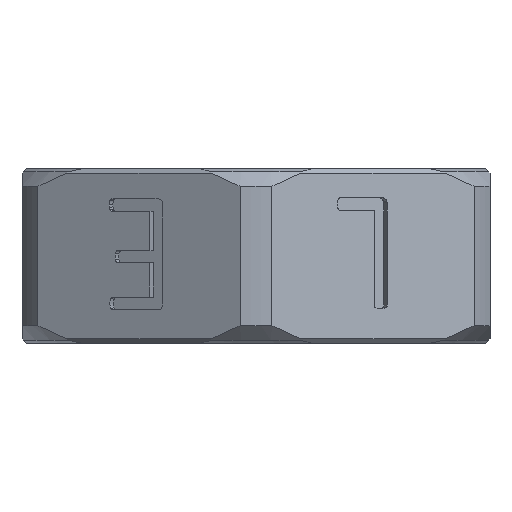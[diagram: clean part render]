
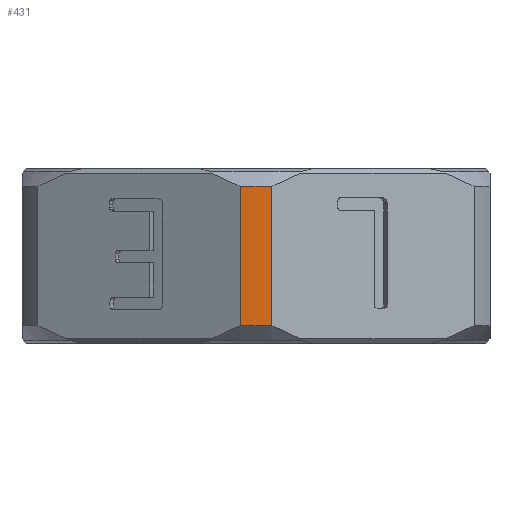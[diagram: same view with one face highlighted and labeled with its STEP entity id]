
A CAD part, left-side view. The second image highlights one B-rep face of the part: STEP entity #431.
In plain terms, the highlighted cylindrical face has radius 15 mm (diameter 30 mm), a partial arc.
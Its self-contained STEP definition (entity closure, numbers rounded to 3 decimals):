
#431 = ADVANCED_FACE( '', ( #1174 ), #1175, .T. );
#1174 = FACE_OUTER_BOUND( '', #2238, .T. );
#1175 = CYLINDRICAL_SURFACE( '', #2239, 15. );
#2238 = EDGE_LOOP( '', ( #3592, #3593, #3594, #3595 ) );
#2239 = AXIS2_PLACEMENT_3D( '', #3596, #3597, #3598 );
#3592 = ORIENTED_EDGE( '', *, *, #7251, .T. );
#3593 = ORIENTED_EDGE( '', *, *, #7252, .T. );
#3594 = ORIENTED_EDGE( '', *, *, #7253, .T. );
#3595 = ORIENTED_EDGE( '', *, *, #7254, .T. );
#3596 = CARTESIAN_POINT( '', ( 0., 0., 5. ) );
#3597 = DIRECTION( '', ( 0., 0., 1. ) );
#3598 = DIRECTION( '', ( -1., 0., 0. ) );
#7251 = EDGE_CURVE( '', #8684, #8685, #8686, .F. );
#7252 = EDGE_CURVE( '', #8685, #8687, #8688, .F. );
#7253 = EDGE_CURVE( '', #8687, #8689, #8690, .T. );
#7254 = EDGE_CURVE( '', #8689, #8684, #8691, .T. );
#8684 = VERTEX_POINT( '', #11032 );
#8685 = VERTEX_POINT( '', #11033 );
#8686 = CIRCLE( '', #11034, 15. );
#8687 = VERTEX_POINT( '', #11035 );
#8688 = LINE( '', #11036, #11037 );
#8689 = VERTEX_POINT( '', #11038 );
#8690 = CIRCLE( '', #11039, 15. );
#8691 = LINE( '', #11040, #11041 );
#11032 = CARTESIAN_POINT( '', ( -14.972, 0.914, -4. ) );
#11033 = CARTESIAN_POINT( '', ( -14.972, -0.914, -4. ) );
#11034 = AXIS2_PLACEMENT_3D( '', #14317, #14318, #14319 );
#11035 = CARTESIAN_POINT( '', ( -14.972, -0.914, 4. ) );
#11036 = CARTESIAN_POINT( '', ( -14.972, -0.914, 5. ) );
#11037 = VECTOR( '', #14320, 1000. );
#11038 = CARTESIAN_POINT( '', ( -14.972, 0.914, 4. ) );
#11039 = AXIS2_PLACEMENT_3D( '', #14321, #14322, #14323 );
#11040 = CARTESIAN_POINT( '', ( -14.972, 0.914, 5. ) );
#11041 = VECTOR( '', #14324, 1000. );
#14317 = CARTESIAN_POINT( '', ( 0., 0., -4. ) );
#14318 = DIRECTION( '', ( 0., 0., -1. ) );
#14319 = DIRECTION( '', ( -1., 0., 0. ) );
#14320 = DIRECTION( '', ( 0., 0., -1. ) );
#14321 = CARTESIAN_POINT( '', ( 0., 0., 4. ) );
#14322 = DIRECTION( '', ( 0., 0., -1. ) );
#14323 = DIRECTION( '', ( -1., 0., 0. ) );
#14324 = DIRECTION( '', ( 0., 0., -1. ) );
